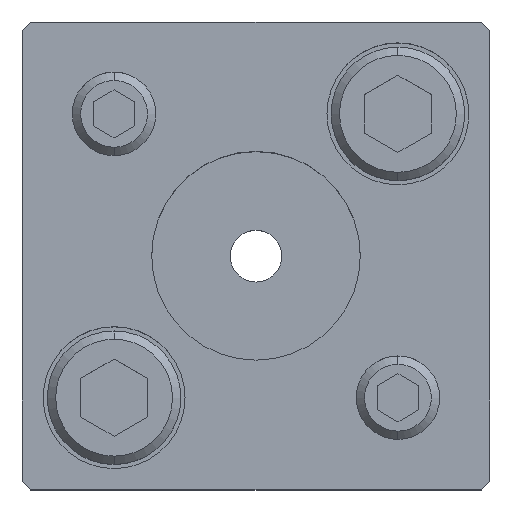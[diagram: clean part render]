
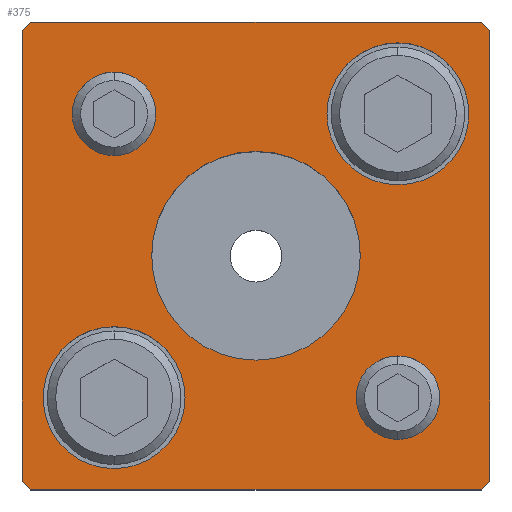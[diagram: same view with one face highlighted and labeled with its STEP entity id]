
A CAD part, top view. The second image highlights one B-rep face of the part: STEP entity #375.
In plain terms, the highlighted planar face has unit normal (0, 0, 1).
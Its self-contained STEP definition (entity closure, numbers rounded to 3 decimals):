
#139=PLANE('',#2873);
#201=FACE_BOUND('',#707,.T.);
#202=FACE_BOUND('',#708,.T.);
#203=FACE_BOUND('',#709,.T.);
#204=FACE_BOUND('',#710,.T.);
#205=FACE_BOUND('',#711,.T.);
#206=FACE_BOUND('',#712,.T.);
#375=ADVANCED_FACE('',(#201,#202,#203,#204,#205,#206),#139,.T.);
#707=EDGE_LOOP('',(#1261,#1262,#1263,#1264,#1265,#1266,#1267,#1268));
#708=EDGE_LOOP('',(#1269,#1270));
#709=EDGE_LOOP('',(#1271,#1272));
#710=EDGE_LOOP('',(#1273,#1274));
#711=EDGE_LOOP('',(#1275,#1276));
#712=EDGE_LOOP('',(#1277,#1278));
#872=CIRCLE('',#2831,5.);
#874=CIRCLE('',#2834,5.);
#876=CIRCLE('',#2837,5.);
#878=CIRCLE('',#2840,5.);
#896=CIRCLE('',#2867,8.5);
#897=CIRCLE('',#2868,8.5);
#898=CIRCLE('',#2869,8.5);
#899=CIRCLE('',#2870,8.5);
#900=CIRCLE('',#2871,12.5);
#901=CIRCLE('',#2872,12.5);
#1261=ORIENTED_EDGE('',*,*,#2078,.T.);
#1262=ORIENTED_EDGE('',*,*,#2079,.T.);
#1263=ORIENTED_EDGE('',*,*,#2080,.T.);
#1264=ORIENTED_EDGE('',*,*,#2081,.T.);
#1265=ORIENTED_EDGE('',*,*,#2082,.T.);
#1266=ORIENTED_EDGE('',*,*,#2083,.T.);
#1267=ORIENTED_EDGE('',*,*,#2084,.T.);
#1268=ORIENTED_EDGE('',*,*,#2085,.T.);
#1269=ORIENTED_EDGE('',*,*,#2086,.F.);
#1270=ORIENTED_EDGE('',*,*,#2087,.F.);
#1271=ORIENTED_EDGE('',*,*,#2088,.F.);
#1272=ORIENTED_EDGE('',*,*,#2089,.F.);
#1273=ORIENTED_EDGE('',*,*,#2052,.F.);
#1274=ORIENTED_EDGE('',*,*,#2048,.F.);
#1275=ORIENTED_EDGE('',*,*,#2046,.F.);
#1276=ORIENTED_EDGE('',*,*,#2042,.F.);
#1277=ORIENTED_EDGE('',*,*,#2090,.T.);
#1278=ORIENTED_EDGE('',*,*,#2091,.T.);
#1761=VERTEX_POINT('',#4141);
#1762=VERTEX_POINT('',#4142);
#1765=VERTEX_POINT('',#4153);
#1766=VERTEX_POINT('',#4154);
#1785=VERTEX_POINT('',#4213);
#1786=VERTEX_POINT('',#4214);
#1787=VERTEX_POINT('',#4216);
#1788=VERTEX_POINT('',#4218);
#1789=VERTEX_POINT('',#4220);
#1790=VERTEX_POINT('',#4222);
#1791=VERTEX_POINT('',#4224);
#1792=VERTEX_POINT('',#4226);
#1793=VERTEX_POINT('',#4229);
#1794=VERTEX_POINT('',#4230);
#1795=VERTEX_POINT('',#4233);
#1796=VERTEX_POINT('',#4234);
#1797=VERTEX_POINT('',#4237);
#1798=VERTEX_POINT('',#4238);
#2042=EDGE_CURVE('',#1761,#1762,#872,.T.);
#2046=EDGE_CURVE('',#1762,#1761,#874,.T.);
#2048=EDGE_CURVE('',#1765,#1766,#876,.T.);
#2052=EDGE_CURVE('',#1766,#1765,#878,.T.);
#2078=EDGE_CURVE('',#1785,#1786,#2360,.T.);
#2079=EDGE_CURVE('',#1786,#1787,#2361,.T.);
#2080=EDGE_CURVE('',#1787,#1788,#2362,.T.);
#2081=EDGE_CURVE('',#1788,#1789,#2363,.T.);
#2082=EDGE_CURVE('',#1789,#1790,#2364,.T.);
#2083=EDGE_CURVE('',#1790,#1791,#2365,.T.);
#2084=EDGE_CURVE('',#1791,#1792,#2366,.T.);
#2085=EDGE_CURVE('',#1792,#1785,#2367,.T.);
#2086=EDGE_CURVE('',#1793,#1794,#896,.T.);
#2087=EDGE_CURVE('',#1794,#1793,#897,.T.);
#2088=EDGE_CURVE('',#1795,#1796,#898,.T.);
#2089=EDGE_CURVE('',#1796,#1795,#899,.T.);
#2090=EDGE_CURVE('',#1797,#1798,#900,.T.);
#2091=EDGE_CURVE('',#1798,#1797,#901,.T.);
#2360=LINE('',#4212,#2580);
#2361=LINE('',#4215,#2581);
#2362=LINE('',#4217,#2582);
#2363=LINE('',#4219,#2583);
#2364=LINE('',#4221,#2584);
#2365=LINE('',#4223,#2585);
#2366=LINE('',#4225,#2586);
#2367=LINE('',#4227,#2587);
#2580=VECTOR('',#3399,1.);
#2581=VECTOR('',#3400,1.);
#2582=VECTOR('',#3401,1.);
#2583=VECTOR('',#3402,1.);
#2584=VECTOR('',#3403,1.);
#2585=VECTOR('',#3404,1.);
#2586=VECTOR('',#3405,1.);
#2587=VECTOR('',#3406,1.);
#2831=AXIS2_PLACEMENT_3D('',#4140,#3315,#3316);
#2834=AXIS2_PLACEMENT_3D('',#4149,#3323,#3324);
#2837=AXIS2_PLACEMENT_3D('',#4152,#3329,#3330);
#2840=AXIS2_PLACEMENT_3D('',#4161,#3337,#3338);
#2867=AXIS2_PLACEMENT_3D('',#4228,#3407,#3408);
#2868=AXIS2_PLACEMENT_3D('',#4231,#3409,#3410);
#2869=AXIS2_PLACEMENT_3D('',#4232,#3411,#3412);
#2870=AXIS2_PLACEMENT_3D('',#4235,#3413,#3414);
#2871=AXIS2_PLACEMENT_3D('',#4236,#3415,#3416);
#2872=AXIS2_PLACEMENT_3D('',#4239,#3417,#3418);
#2873=AXIS2_PLACEMENT_3D('',#4240,#3419,#3420);
#3315=DIRECTION('',(0.,0.,1.));
#3316=DIRECTION('',(1.,0.,0.));
#3323=DIRECTION('',(0.,0.,1.));
#3324=DIRECTION('',(-1.,0.,0.));
#3329=DIRECTION('',(0.,0.,1.));
#3330=DIRECTION('',(1.,0.,0.));
#3337=DIRECTION('',(0.,0.,1.));
#3338=DIRECTION('',(-1.,0.,0.));
#3399=DIRECTION('',(0.,1.,0.));
#3400=DIRECTION('',(-0.707,0.707,0.));
#3401=DIRECTION('',(-1.,0.,0.));
#3402=DIRECTION('',(-0.707,-0.707,0.));
#3403=DIRECTION('',(0.,-1.,0.));
#3404=DIRECTION('',(0.707,-0.707,0.));
#3405=DIRECTION('',(1.,0.,0.));
#3406=DIRECTION('',(0.707,0.707,0.));
#3407=DIRECTION('',(0.,0.,1.));
#3408=DIRECTION('',(1.,0.,0.));
#3409=DIRECTION('',(0.,0.,1.));
#3410=DIRECTION('',(-1.,0.,0.));
#3411=DIRECTION('',(0.,0.,1.));
#3412=DIRECTION('',(1.,0.,0.));
#3413=DIRECTION('',(0.,0.,1.));
#3414=DIRECTION('',(-1.,0.,0.));
#3415=DIRECTION('',(0.,0.,-1.));
#3416=DIRECTION('',(-1.,0.,0.));
#3417=DIRECTION('',(0.,0.,-1.));
#3418=DIRECTION('',(1.,0.,0.));
#3419=DIRECTION('',(0.,0.,1.));
#3420=DIRECTION('',(0.,-1.,0.));
#4140=CARTESIAN_POINT('',(17.,-17.,35.));
#4141=CARTESIAN_POINT('',(17.,-12.,35.));
#4142=CARTESIAN_POINT('',(17.,-22.,35.));
#4149=CARTESIAN_POINT('',(17.,-17.,35.));
#4152=CARTESIAN_POINT('',(-17.,17.,35.));
#4153=CARTESIAN_POINT('',(-17.,22.,35.));
#4154=CARTESIAN_POINT('',(-17.,12.,35.));
#4161=CARTESIAN_POINT('',(-17.,17.,35.));
#4212=CARTESIAN_POINT('',(28.,27.,35.));
#4213=CARTESIAN_POINT('',(28.,-27.,35.));
#4214=CARTESIAN_POINT('',(28.,27.,35.));
#4215=CARTESIAN_POINT('',(27.,28.,35.));
#4216=CARTESIAN_POINT('',(27.,28.,35.));
#4217=CARTESIAN_POINT('',(-27.,28.,35.));
#4218=CARTESIAN_POINT('',(-27.,28.,35.));
#4219=CARTESIAN_POINT('',(-28.,27.,35.));
#4220=CARTESIAN_POINT('',(-28.,27.,35.));
#4221=CARTESIAN_POINT('',(-28.,-27.,35.));
#4222=CARTESIAN_POINT('',(-28.,-27.,35.));
#4223=CARTESIAN_POINT('',(-27.,-28.,35.));
#4224=CARTESIAN_POINT('',(-27.,-28.,35.));
#4225=CARTESIAN_POINT('',(27.,-28.,35.));
#4226=CARTESIAN_POINT('',(27.,-28.,35.));
#4227=CARTESIAN_POINT('',(28.,-27.,35.));
#4228=CARTESIAN_POINT('',(-17.,-17.,35.));
#4229=CARTESIAN_POINT('',(-17.,-8.5,35.));
#4230=CARTESIAN_POINT('',(-17.,-25.5,35.));
#4231=CARTESIAN_POINT('',(-17.,-17.,35.));
#4232=CARTESIAN_POINT('',(17.,17.,35.));
#4233=CARTESIAN_POINT('',(17.,25.5,35.));
#4234=CARTESIAN_POINT('',(17.,8.5,35.));
#4235=CARTESIAN_POINT('',(17.,17.,35.));
#4236=CARTESIAN_POINT('',(0.,0.,35.));
#4237=CARTESIAN_POINT('',(0.,12.5,35.));
#4238=CARTESIAN_POINT('',(0.,-12.5,35.));
#4239=CARTESIAN_POINT('',(0.,0.,35.));
#4240=CARTESIAN_POINT('',(28.,-27.,35.));
